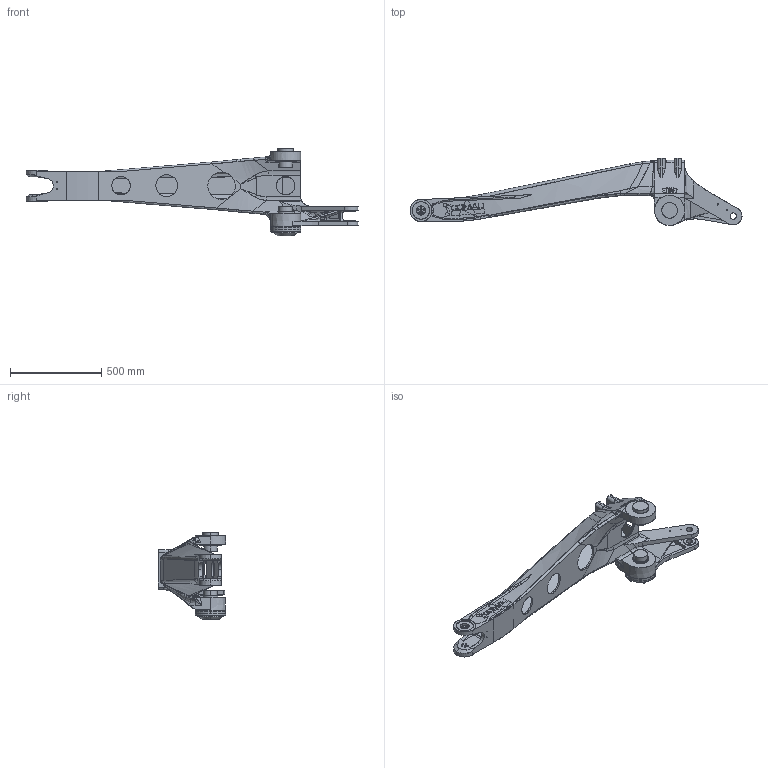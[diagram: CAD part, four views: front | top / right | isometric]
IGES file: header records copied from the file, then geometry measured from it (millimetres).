
Start section: SolidWorks IGES file using analytic representation for surfaces
Global section: file name: C:\Documents and Settings\u014048\Desktop\pallettizzatore sempleficato sellingarea 2010-08-25\SMART5 PAL 260-3.1 (3D-SOLIDWORKS)\Nuova cartella\SMART5 PAL 260-3.1_p06aa.IGS; native system: SolidWorks 2007; preprocessor: SolidWorks 2007; author: u014048; date: 100826.091342; units: millimetre
Bounding box: 1816.17 x 367.5 x 480.5 mm (x, y, z)
Surface area: 2369650.9 mm2 (no closed solid volume)
Topology: 0 solids, 0 shells, 798 faces, 14716 edges, 14692 vertices
Faces by surface type: bspline 507, revolution 291
